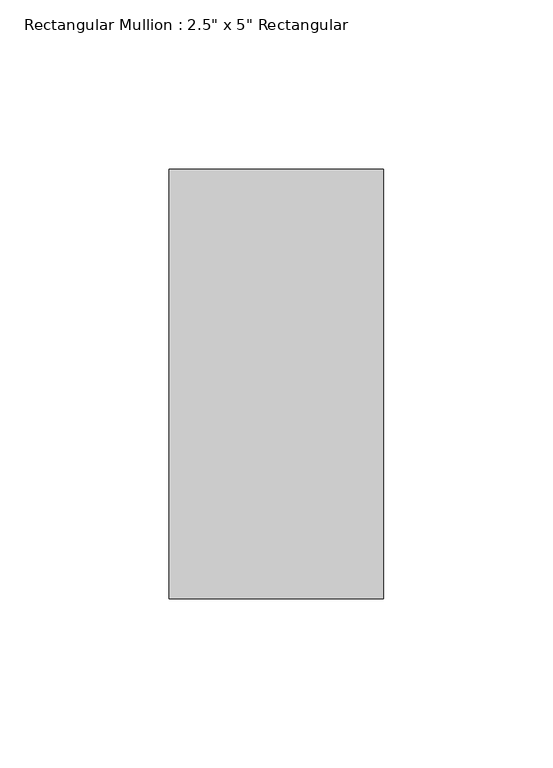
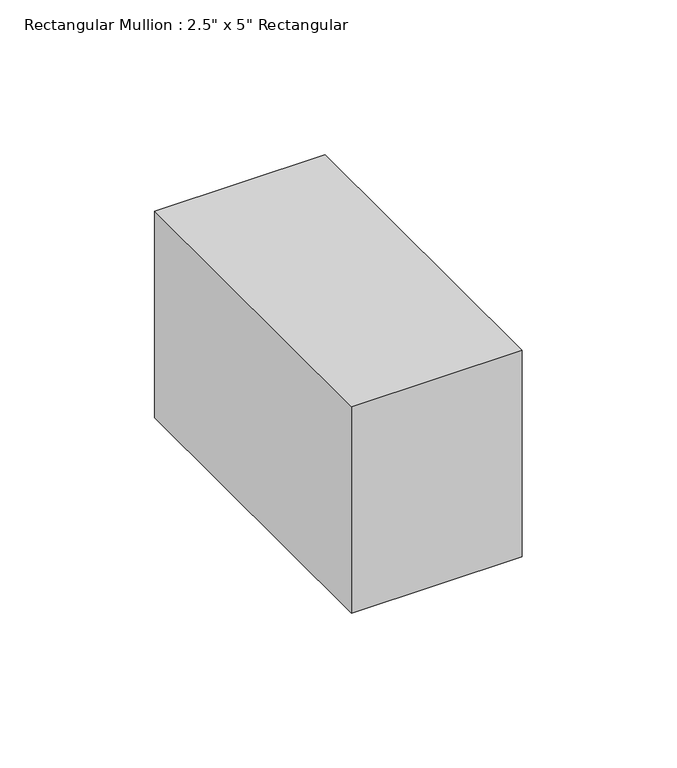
"""IFC4 building model written with IfcOpenShell, lengths in millimetres: member geometry."""

from ifc_helpers import new_model, si_unit, frame, origin, place, context, project, spatial, polyline, outline, extrude, source, transform, mapped, element, save


def member_e91c94a8(model_context):
    return source(origin(), model_context, "Body", "SweptSolid", [
        extrude(outline(polyline([(31.75, 63.5), (31.75, -63.5), (-31.75, -63.5), (-31.75, 63.5), (31.75, 63.5)])), frame((0.0, 0.0, -81.2288827), z_axis=(0.0, 0.0, 1.0), x_axis=(1.0, 0.0, 0.0)), (0.0, 0.0, 1.0), 81.2288827),
    ])


if __name__ == "__main__":
    model = new_model("IFC4")
    model_context = context("Model", 3, world=origin())
    ifc_project = project(units=[si_unit("LENGTHUNIT", "METRE", prefix="MILLI")], contexts=[model_context])
    site = spatial("IfcSite", under=ifc_project)
    building = spatial("IfcBuilding", under=site)
    placement = place(None, origin())
    member_shape = member_e91c94a8(model_context)
    element("IfcMember", 1, ObjectType="Rectangular Mullion : 2.5\" x 5\" Rectangular", at=placement, inside=building, context=model_context, shape_type="MappedRepresentation", body=[
        mapped(member_shape, transform((0.0, 0.0, 0.0), x_axis=(1.0, 0.0, 0.0), y_axis=(0.0, 1.0, 0.0), z_axis=(0.0, 0.0, 1.0))),
    ])
    save(model, "model.ifc")
